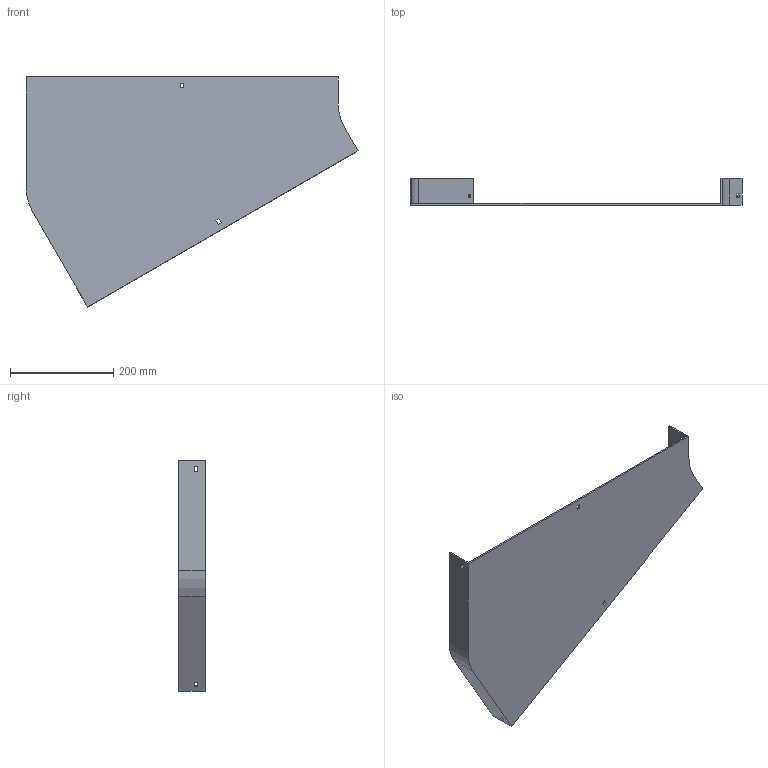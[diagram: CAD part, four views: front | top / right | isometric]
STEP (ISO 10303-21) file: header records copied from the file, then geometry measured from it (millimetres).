
FILE_DESCRIPTION (( 'STEP AP214' ), '1' );
FILE_NAME ('12B1B600.step', '2025-02-21T09:34:44', ( '' ), ( '' ), 'SwSTEP 2.0', 'SolidWorks 2023', '' );
FILE_SCHEMA (( 'AUTOMOTIVE_DESIGN' ));
Length unit declared in the file: millimetre
Products named in the file (1): 12B1B600
Bounding box: 642.4 x 52 x 445.3 mm (x, y, z)
Volume: 772103.3 mm3; surface area: 449001.3 mm2
Topology: 1 solids, 1 shells, 42 faces, 120 edges, 80 vertices
Faces by surface type: plane 38, cylinder 4
Entity records: 1399 total; most frequent: CARTESIAN_POINT 243, ORIENTED_EDGE 240, DIRECTION 214, EDGE_CURVE 120, LINE 112, VECTOR 112, VERTEX_POINT 80, EDGE_LOOP 54
